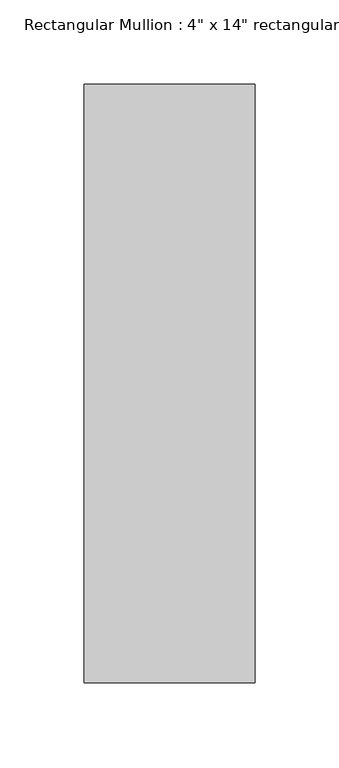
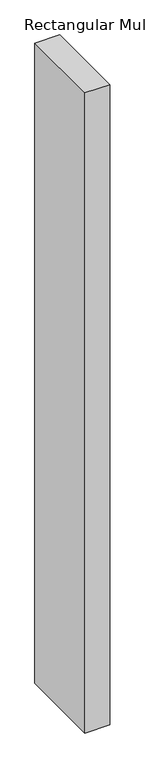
"""IFC4 building model written with IfcOpenShell, lengths in millimetres: member geometry."""

from ifc_helpers import new_model, si_unit, frame, origin, place, context, project, spatial, polyline, outline, extrude, source, transform, mapped, element, save


def member_9bcba61f(model_context):
    return source(origin(), model_context, "Body", "SweptSolid", [
        extrude(outline(polyline([(50.8, 292.1), (50.8, -63.5), (-50.8, -63.5), (-50.8, 292.1), (50.8, 292.1)])), frame((0.0, 0.0, -2775.2694116), z_axis=(0.0, 0.0, 1.0), x_axis=(1.0, 0.0, 0.0)), (0.0, 0.0, 1.0), 2775.2694116),
    ])


if __name__ == "__main__":
    model = new_model("IFC4")
    model_context = context("Model", 3, world=origin())
    ifc_project = project(units=[si_unit("LENGTHUNIT", "METRE", prefix="MILLI")], contexts=[model_context])
    site = spatial("IfcSite", under=ifc_project)
    building = spatial("IfcBuilding", under=site)
    placement = place(None, origin())
    member_shape = member_9bcba61f(model_context)
    element("IfcMember", 1, ObjectType="Rectangular Mullion : 4\" x 14\" rectangular", at=placement, inside=building, context=model_context, shape_type="MappedRepresentation", body=[
        mapped(member_shape, transform((0.0, 0.0, 0.0), x_axis=(1.0, 0.0, 0.0), y_axis=(0.0, 1.0, 0.0), z_axis=(0.0, 0.0, 1.0))),
    ])
    save(model, "model.ifc")
